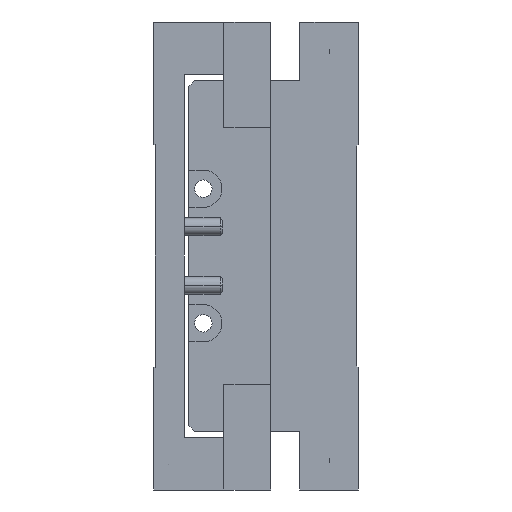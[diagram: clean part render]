
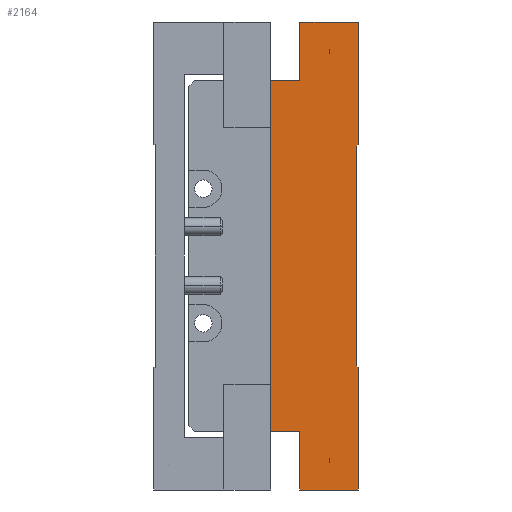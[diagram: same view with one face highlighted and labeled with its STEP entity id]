
A CAD part, left-side view. The second image highlights one B-rep face of the part: STEP entity #2164.
In plain terms, the highlighted planar face has unit normal (-1, 0, 0) as drawn and (0, 0, -1) by its records, which use the part's own axes.
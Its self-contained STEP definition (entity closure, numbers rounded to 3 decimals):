
#1=DIRECTION('',(-0.707,0.707,0.));
#2=VECTOR('',#1,0.354);
#3=CARTESIAN_POINT('',(19.05,0.,-105.));
#4=LINE('',#3,#2);
#5=DIRECTION('',(0.,-1.,0.));
#6=VECTOR('',#5,10.);
#7=CARTESIAN_POINT('',(40.,10.,-105.));
#8=LINE('',#7,#6);
#9=DIRECTION('',(1.,0.,0.));
#10=VECTOR('',#9,10.);
#11=CARTESIAN_POINT('',(30.,10.,-105.));
#12=LINE('',#11,#10);
#13=DIRECTION('',(0.,-1.,0.));
#14=VECTOR('',#13,5.);
#15=CARTESIAN_POINT('',(30.,15.,-105.));
#16=LINE('',#15,#14);
#17=DIRECTION('',(0.,-1.,0.));
#18=VECTOR('',#17,5.);
#19=CARTESIAN_POINT('',(-30.,15.,-105.));
#20=LINE('',#19,#18);
#21=DIRECTION('',(-1.,0.,0.));
#22=VECTOR('',#21,10.);
#23=CARTESIAN_POINT('',(-30.,10.,-105.));
#24=LINE('',#23,#22);
#25=DIRECTION('',(0.,-1.,0.));
#26=VECTOR('',#25,10.);
#27=CARTESIAN_POINT('',(-40.,10.,-105.));
#28=LINE('',#27,#26);
#29=DIRECTION('',(-0.707,-0.707,0.));
#30=VECTOR('',#29,0.354);
#31=CARTESIAN_POINT('',(-18.8,0.25,-105.));
#32=LINE('',#31,#30);
#33=DIRECTION('',(-1.,0.,0.));
#34=VECTOR('',#33,37.6);
#35=CARTESIAN_POINT('',(18.8,0.25,-105.));
#36=LINE('',#35,#34);
#277=DIRECTION('',(-1.,0.,0.));
#278=VECTOR('',#277,20.95);
#279=CARTESIAN_POINT('',(40.,0.,-105.));
#280=LINE('',#279,#278);
#285=DIRECTION('',(-1.,0.,0.));
#286=VECTOR('',#285,20.95);
#287=CARTESIAN_POINT('',(-19.05,0.,-105.));
#288=LINE('',#287,#286);
#861=DIRECTION('',(1.,0.,0.));
#862=VECTOR('',#861,60.);
#863=CARTESIAN_POINT('',(-30.,15.,-105.));
#864=LINE('',#863,#862);
#1653=CARTESIAN_POINT('',(-30.,15.,-105.));
#1654=CARTESIAN_POINT('',(-30.,10.,-105.));
#1655=VERTEX_POINT('',#1653);
#1656=VERTEX_POINT('',#1654);
#1657=CARTESIAN_POINT('',(-40.,10.,-105.));
#1658=VERTEX_POINT('',#1657);
#1659=CARTESIAN_POINT('',(-40.,0.,-105.));
#1660=VERTEX_POINT('',#1659);
#1669=CARTESIAN_POINT('',(30.,15.,-105.));
#1670=CARTESIAN_POINT('',(30.,10.,-105.));
#1671=VERTEX_POINT('',#1669);
#1672=VERTEX_POINT('',#1670);
#1673=CARTESIAN_POINT('',(40.,10.,-105.));
#1674=VERTEX_POINT('',#1673);
#1675=CARTESIAN_POINT('',(40.,0.,-105.));
#1676=VERTEX_POINT('',#1675);
#2037=CARTESIAN_POINT('',(19.05,0.,-105.));
#2038=CARTESIAN_POINT('',(18.8,0.25,-105.));
#2039=VERTEX_POINT('',#2037);
#2040=VERTEX_POINT('',#2038);
#2041=CARTESIAN_POINT('',(-18.8,0.25,-105.));
#2042=VERTEX_POINT('',#2041);
#2043=CARTESIAN_POINT('',(-19.05,0.,-105.));
#2044=VERTEX_POINT('',#2043);
#2133=CARTESIAN_POINT('',(0.,0.,-105.));
#2134=DIRECTION('',(0.,0.,1.));
#2135=DIRECTION('',(1.,0.,0.));
#2136=AXIS2_PLACEMENT_3D('',#2133,#2134,#2135);
#2137=PLANE('',#2136);
#2139=ORIENTED_EDGE('',*,*,#2138,.F.);
#2141=ORIENTED_EDGE('',*,*,#2140,.F.);
#2143=ORIENTED_EDGE('',*,*,#2142,.F.);
#2145=ORIENTED_EDGE('',*,*,#2144,.F.);
#2147=ORIENTED_EDGE('',*,*,#2146,.F.);
#2149=ORIENTED_EDGE('',*,*,#2148,.F.);
#2151=ORIENTED_EDGE('',*,*,#2150,.T.);
#2153=ORIENTED_EDGE('',*,*,#2152,.T.);
#2155=ORIENTED_EDGE('',*,*,#2154,.T.);
#2157=ORIENTED_EDGE('',*,*,#2156,.F.);
#2159=ORIENTED_EDGE('',*,*,#2158,.F.);
#2161=ORIENTED_EDGE('',*,*,#2160,.F.);
#2162=EDGE_LOOP('',(#2139,#2141,#2143,#2145,#2147,#2149,#2151,#2153,#2155,#2157,
#2159,#2161));
#2163=FACE_OUTER_BOUND('',#2162,.F.);
#2164=ADVANCED_FACE('',(#2163),#2137,.F.);
#2138=EDGE_CURVE('',#2039,#2040,#4,.T.);
#2140=EDGE_CURVE('',#1676,#2039,#280,.T.);
#2142=EDGE_CURVE('',#1674,#1676,#8,.T.);
#2144=EDGE_CURVE('',#1672,#1674,#12,.T.);
#2146=EDGE_CURVE('',#1671,#1672,#16,.T.);
#2148=EDGE_CURVE('',#1655,#1671,#864,.T.);
#2150=EDGE_CURVE('',#1655,#1656,#20,.T.);
#2152=EDGE_CURVE('',#1656,#1658,#24,.T.);
#2154=EDGE_CURVE('',#1658,#1660,#28,.T.);
#2156=EDGE_CURVE('',#2044,#1660,#288,.T.);
#2158=EDGE_CURVE('',#2042,#2044,#32,.T.);
#2160=EDGE_CURVE('',#2040,#2042,#36,.T.);
